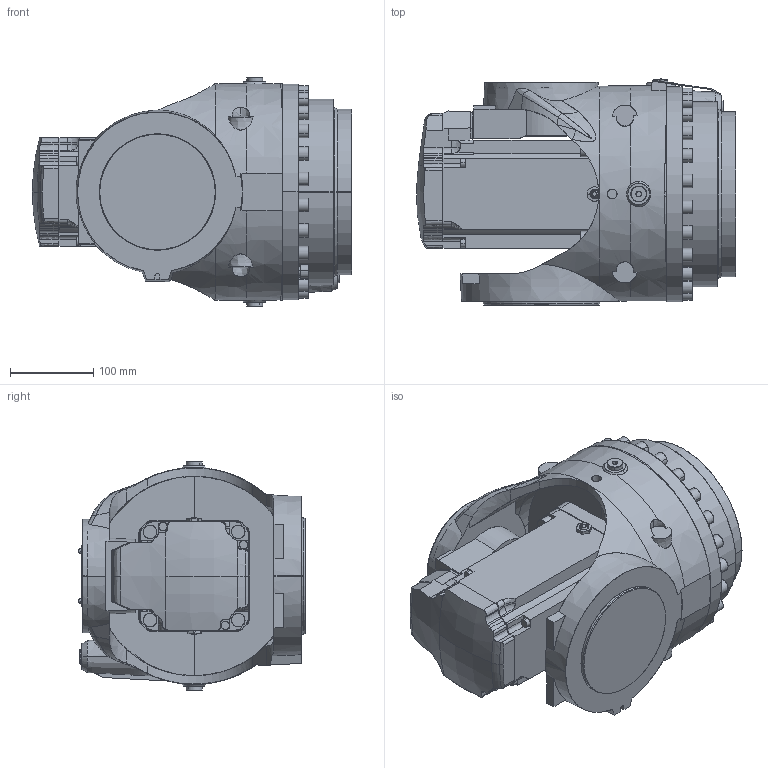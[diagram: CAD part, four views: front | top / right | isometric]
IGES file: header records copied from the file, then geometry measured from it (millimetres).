
Start section: SolidWorks IGES file using analytic representation for surfaces
Global section: file name: C:\Users\SEJAOLS6\OneDrive - ABB\Documents\SAP\7720\7720_Lightweight_models\IRB7720-MH3_530kg-310_OC_01_SW_J\IRB7710-MH3_530kg-310_OC_01_IGES_J\IRB7720_All-310_OC_00_LINK05_CAD.igs; native system: SolidWorks 2024; preprocessor: SolidWorks 2024; author: SEJAOLS6; date: 260127.083002; units: millimetre
Bounding box: 383.95 x 272.23 x 275 mm (x, y, z)
Surface area: 586609.2 mm2 (no closed solid volume)
Topology: 0 solids, 0 shells, 763 faces, 12599 edges, 12595 vertices
Faces by surface type: bspline 399, revolution 364
